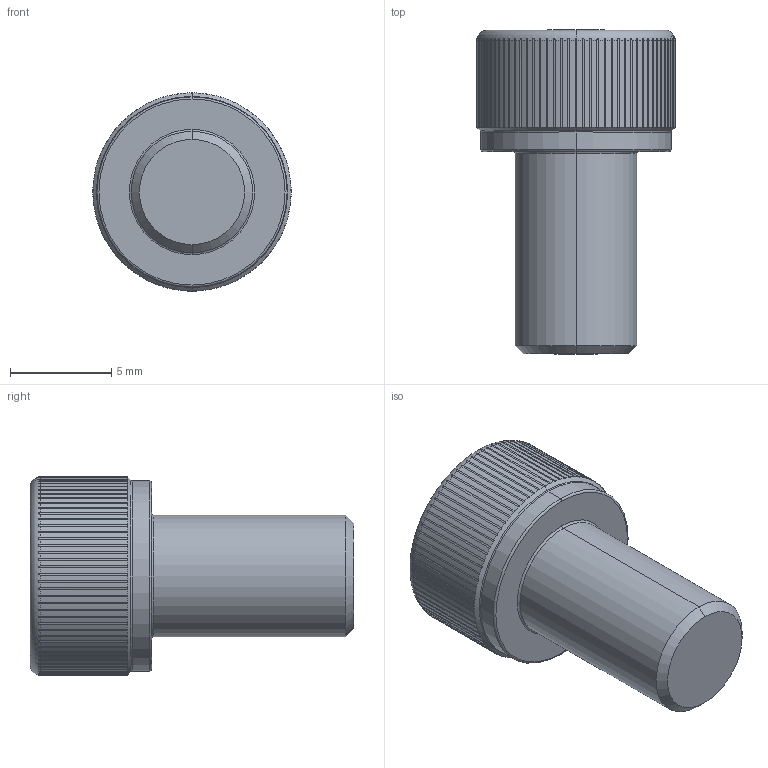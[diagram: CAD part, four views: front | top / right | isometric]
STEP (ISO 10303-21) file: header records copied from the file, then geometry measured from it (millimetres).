
FILE_DESCRIPTION (( 'STEP AP203' ), '1' );
FILE_NAME ('LGDT-304-M6x10.STEP', '2026-08-10T04:21:56', ( '' ), ( '' ), 'SwSTEP 2.0', 'SolidWorks 2020', '' );
FILE_SCHEMA (( 'CONFIG_CONTROL_DESIGN' ));
Length unit declared in the file: millimetre
Products named in the file (1): LGDT-304-M6x10
Bounding box: 9.8 x 16 x 9.8 mm (x, y, z)
Volume: 649.4 mm3; surface area: 566.3 mm2
Topology: 1 solids, 1 shells, 216 faces, 612 edges, 400 vertices
Faces by surface type: cylinder 187, cone 11, plane 10, torus 8
Entity records: 8880 total; most frequent: CARTESIAN_POINT 3409, ORIENTED_EDGE 1224, DIRECTION 1048, EDGE_CURVE 612, AXIS2_PLACEMENT_3D 422, VERTEX_POINT 400, EDGE_LOOP 218, ADVANCED_FACE 216
